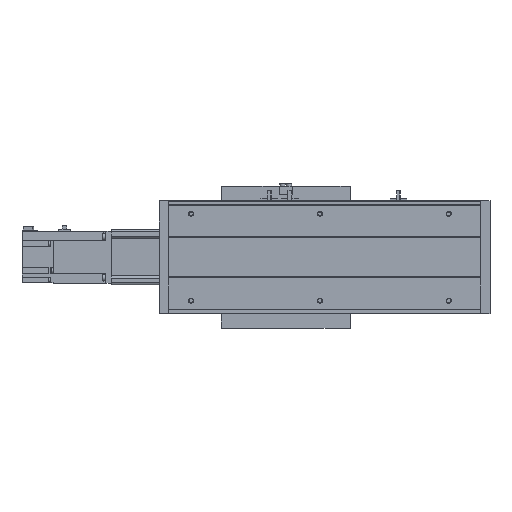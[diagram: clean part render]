
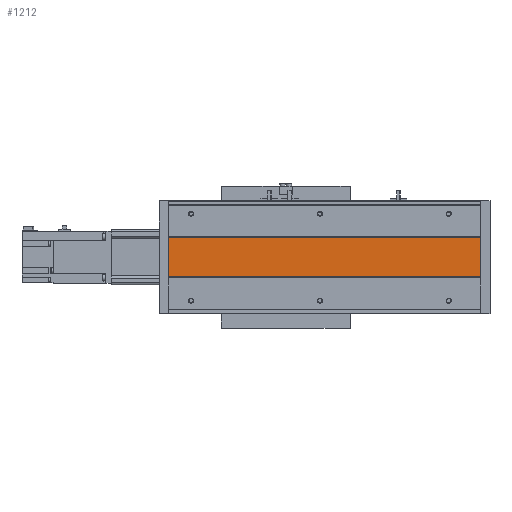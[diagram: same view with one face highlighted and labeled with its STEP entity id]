
A CAD part, front view. The second image highlights one B-rep face of the part: STEP entity #1212.
In plain terms, the highlighted planar face has unit normal (0, -1, 0).
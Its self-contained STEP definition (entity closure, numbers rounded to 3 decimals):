
#1212 = ADVANCED_FACE( '', ( #2617 ), #2618, .F. );
#2617 = FACE_OUTER_BOUND( '', #4298, .T. );
#2618 = PLANE( '', #4299 );
#4298 = EDGE_LOOP( '', ( #7385, #7386, #7387, #7388 ) );
#4299 = AXIS2_PLACEMENT_3D( '', #7389, #7390, #7391 );
#7385 = ORIENTED_EDGE( '', *, *, #10958, .F. );
#7386 = ORIENTED_EDGE( '', *, *, #10959, .T. );
#7387 = ORIENTED_EDGE( '', *, *, #10960, .T. );
#7388 = ORIENTED_EDGE( '', *, *, #10961, .F. );
#7389 = CARTESIAN_POINT( '', ( 513., 1., 30. ) );
#7390 = DIRECTION( '', ( 0., 1., 0. ) );
#7391 = DIRECTION( '', ( 0., 0., 1. ) );
#10958 = EDGE_CURVE( '', #13499, #13500, #13501, .T. );
#10959 = EDGE_CURVE( '', #13499, #13502, #13503, .T. );
#10960 = EDGE_CURVE( '', #13502, #13504, #13505, .T. );
#10961 = EDGE_CURVE( '', #13500, #13504, #13506, .T. );
#13499 = VERTEX_POINT( '', #16991 );
#13500 = VERTEX_POINT( '', #16992 );
#13501 = LINE( '', #16993, #16994 );
#13502 = VERTEX_POINT( '', #16995 );
#13503 = LINE( '', #16996, #16997 );
#13504 = VERTEX_POINT( '', #16998 );
#13505 = LINE( '', #16999, #17000 );
#13506 = LINE( '', #17001, #17002 );
#16991 = CARTESIAN_POINT( '', ( 499., 1., 30. ) );
#16992 = CARTESIAN_POINT( '', ( 499., 1., -30. ) );
#16993 = CARTESIAN_POINT( '', ( 499., 1., 30. ) );
#16994 = VECTOR( '', #19344, 1000. );
#16995 = CARTESIAN_POINT( '', ( 14., 1., 30. ) );
#16996 = CARTESIAN_POINT( '', ( 513., 1., 30. ) );
#16997 = VECTOR( '', #19345, 1000. );
#16998 = CARTESIAN_POINT( '', ( 14., 1., -30. ) );
#16999 = CARTESIAN_POINT( '', ( 14., 1., 30. ) );
#17000 = VECTOR( '', #19346, 1000. );
#17001 = CARTESIAN_POINT( '', ( 513., 1., -30. ) );
#17002 = VECTOR( '', #19347, 1000. );
#19344 = DIRECTION( '', ( 0., 0., -1. ) );
#19345 = DIRECTION( '', ( -1., 0., 0. ) );
#19346 = DIRECTION( '', ( 0., 0., -1. ) );
#19347 = DIRECTION( '', ( -1., 0., 0. ) );
